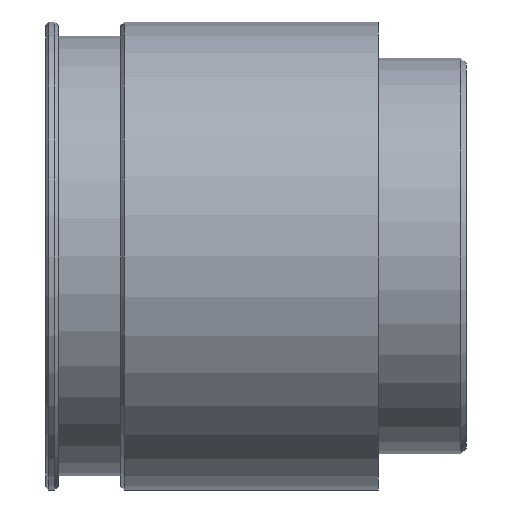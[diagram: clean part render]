
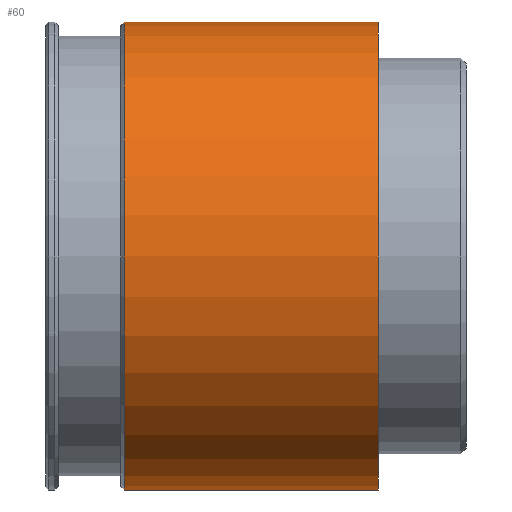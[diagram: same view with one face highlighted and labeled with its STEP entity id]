
A CAD part, front view. The second image highlights one B-rep face of the part: STEP entity #60.
In plain terms, the highlighted cylindrical face has radius 37.25 mm (diameter 74.5 mm), a full revolution.
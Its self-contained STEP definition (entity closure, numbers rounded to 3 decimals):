
#60 = ADVANCED_FACE( '', ( #131, #132 ), #133, .T. );
#131 = FACE_OUTER_BOUND( '', #210, .T. );
#132 = FACE_OUTER_BOUND( '', #211, .T. );
#133 = CYLINDRICAL_SURFACE( '', #212, 37.25 );
#210 = EDGE_LOOP( '', ( #301 ) );
#211 = EDGE_LOOP( '', ( #302 ) );
#212 = AXIS2_PLACEMENT_3D( '', #303, #304, #305 );
#301 = ORIENTED_EDGE( '', *, *, #368, .T. );
#302 = ORIENTED_EDGE( '', *, *, #364, .F. );
#303 = CARTESIAN_POINT( '', ( 67., 0., 0. ) );
#304 = DIRECTION( '', ( -1., 0., 0. ) );
#305 = DIRECTION( '', ( 0., 0., -1. ) );
#364 = EDGE_CURVE( '', #406, #406, #407, .T. );
#368 = EDGE_CURVE( '', #413, #413, #414, .T. );
#406 = VERTEX_POINT( '', #460 );
#407 = CIRCLE( '', #461, 37.25 );
#413 = VERTEX_POINT( '', #467 );
#414 = CIRCLE( '', #468, 37.25 );
#460 = CARTESIAN_POINT( '', ( 53., 0., -37.25 ) );
#461 = AXIS2_PLACEMENT_3D( '', #516, #517, #518 );
#467 = CARTESIAN_POINT( '', ( 12.5, 0., -37.25 ) );
#468 = AXIS2_PLACEMENT_3D( '', #525, #526, #527 );
#516 = CARTESIAN_POINT( '', ( 53., 0., 0. ) );
#517 = DIRECTION( '', ( 1., 0., 0. ) );
#518 = DIRECTION( '', ( 0., 0., -1. ) );
#525 = CARTESIAN_POINT( '', ( 12.5, 0., 0. ) );
#526 = DIRECTION( '', ( 1., 0., 0. ) );
#527 = DIRECTION( '', ( 0., 0., -1. ) );
